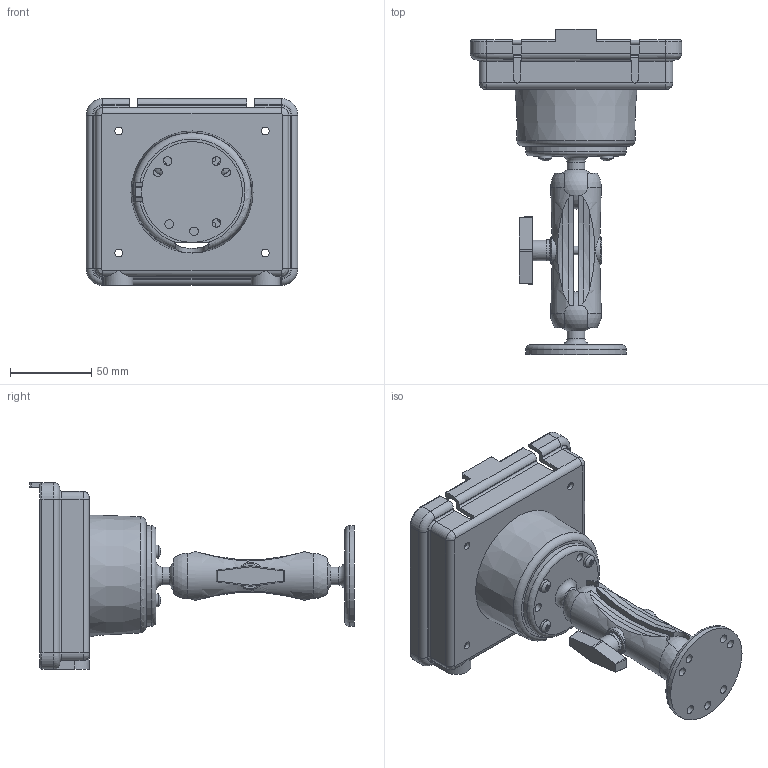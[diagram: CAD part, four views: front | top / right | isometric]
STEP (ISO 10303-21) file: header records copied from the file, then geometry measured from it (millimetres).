
FILE_DESCRIPTION( ( 'STEP AP203' ), ' ' );
FILE_NAME( 'p:/temp/worker_8/588_1716/app_90_02015083108223857127415192d056f_000000_00_00_000000/format_3/EC0406.stp', '2015-08-31T06:22:45', ( '' ), ( '' ), ' ', 'PARTsolutions', ' ' );
FILE_SCHEMA( ( 'CONFIG_CONTROL_DESIGN' ) );
Length unit declared in the file: millimetre
Products named in the file (6): EC0406; _EC0405_p1; _EC0405_p2; _EC0406_p3; _EC0405_p4; _EC0405_p5
Assembly tree (12 placements, depth 2):
  EC0406
    _EC0405_p1  x2
    _EC0405_p2
    _EC0406_p3
    _EC0405_p4  x4
    _EC0405_p5  x4
Bounding box: 129.96 x 199.74 x 114.87 mm (x, y, z)
Volume: 184508.3 mm3; surface area: 105563.3 mm2
Topology: 12 solids, 12 shells, 499 faces, 1276 edges, 820 vertices
Faces by surface type: plane 224, cylinder 158, torus 47, bspline 36, cone 20, sphere 14
Full cylindrical faces by diameter (mm): 3.242 x8, 4 x4, 4.75 x8, 5.23 x1, 5.3 x14, 5.5 x2, 8 x4, 8.45 x4, 11 x2, 12.57 x2, 13.07 x1, 14.857 x4, 16.87 x2, 62 x2
Entity records: 12517 total; most frequent: CARTESIAN_POINT 3406, DIRECTION 1891, ORIENTED_EDGE 1786, EDGE_CURVE 893, AXIS2_PLACEMENT_3D 735, VERTEX_POINT 603, EDGE_LOOP 473, LINE 421
